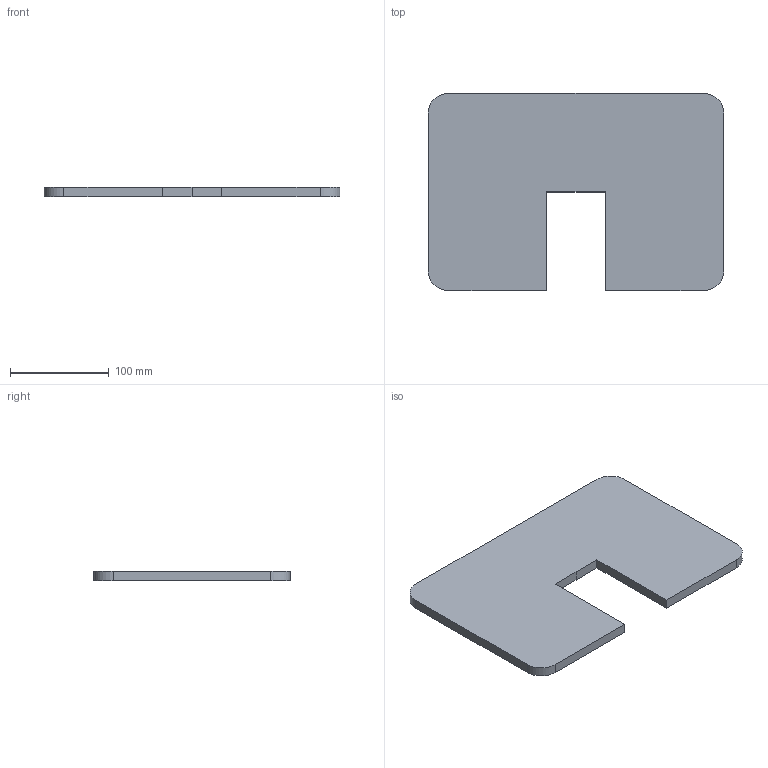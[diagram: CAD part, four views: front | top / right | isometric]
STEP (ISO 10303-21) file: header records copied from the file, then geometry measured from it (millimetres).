
FILE_DESCRIPTION(('CATIA V5 STEP Exchange'),'2;1');
FILE_NAME('C:\Users\gener\Documents\Lijadora Javitxu corte laser\mesa.stp','2022-08-29T05:44:22+00:00',('none'),('none'),'CATIA Version 5 Release 20 GA (IN-10)','CATIA V5 STEP AP203','none');
FILE_SCHEMA(('CONFIG_CONTROL_DESIGN'));
Length unit declared in the file: millimetre
Products named in the file (1): mesa
Bounding box: 300 x 200 x 10 mm (x, y, z)
Volume: 536566.4 mm3; surface area: 118969.9 mm2
Topology: 1 solids, 1 shells, 16 faces, 42 edges, 28 vertices
Faces by surface type: plane 12, cylinder 4
Entity records: 513 total; most frequent: CARTESIAN_POINT 84, ORIENTED_EDGE 84, DIRECTION 68, EDGE_CURVE 42, VECTOR 34, LINE 34, VERTEX_POINT 28, AXIS2_PLACEMENT_3D 22
